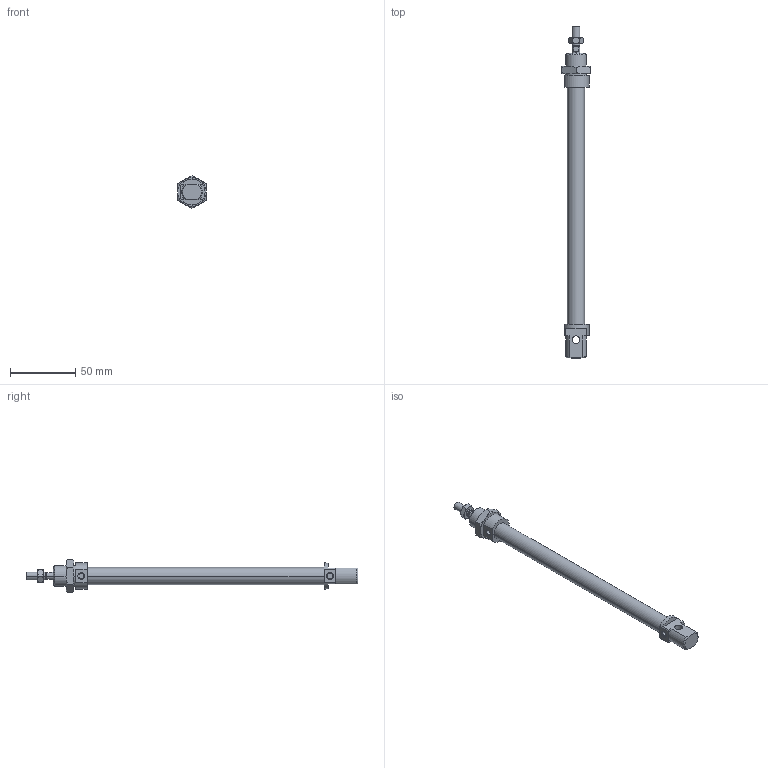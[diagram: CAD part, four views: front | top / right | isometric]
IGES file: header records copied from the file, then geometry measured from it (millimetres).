
Global section: file name: No Iges File Name specified; native system: Autodesk Inventor 2010; preprocessor: AutoDesk Inventor Iges Exporter R2010; author: rivolro1; date: 20090604.093151; units: millimetre
Bounding box: 22 x 255 x 25.4 mm (x, y, z)
Volume: 37958.5 mm3; surface area: 20080.5 mm2
Topology: 4 solids, 4 shells, 107 faces, 236 edges, 144 vertices
Faces by surface type: plane 39, cone 28, bspline 20, cylinder 14, revolution 6
